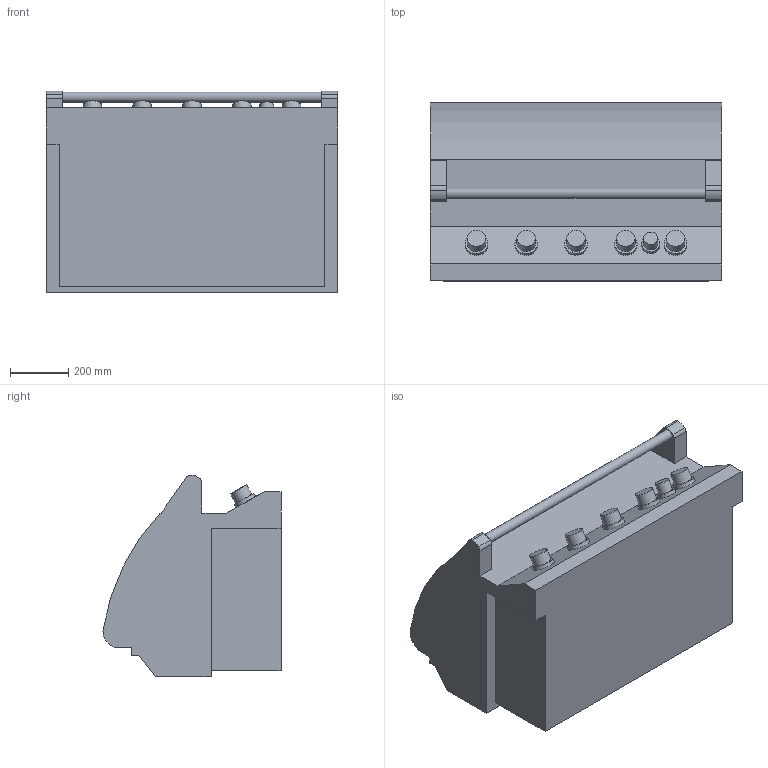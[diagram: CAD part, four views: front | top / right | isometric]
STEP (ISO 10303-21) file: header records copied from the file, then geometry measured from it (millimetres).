
FILE_DESCRIPTION (( 'STEP AP203' ), '1' );
FILE_NAME ('BIG36RB.STEP', '2020-04-24T13:42:05', ( '8DNKR52' ), ( 'Microsoft' ), 'SwSTEP 2.0', 'SolidWorks 2019', '' );
FILE_SCHEMA (( 'CONFIG_CONTROL_DESIGN' ));
Length unit declared in the file: inch
Products named in the file (1): BIG36RB
Bounding box: 1003.3 x 613.08 x 695.12 mm (x, y, z)
Volume: 299309306.4 mm3; surface area: 3089097.6 mm2
Topology: 1 solids, 1 shells, 57 faces, 136 edges, 93 vertices
Faces by surface type: plane 36, cylinder 21
Full cylindrical faces by diameter (mm): 34.925 x1, 49.213 x1, 63.5 x6, 77.787 x5
Entity records: 1623 total; most frequent: DIRECTION 274, CARTESIAN_POINT 260, ORIENTED_EDGE 232, EDGE_CURVE 116, AXIS2_PLACEMENT_3D 100, VERTEX_POINT 86, EDGE_LOOP 84, LINE 74
